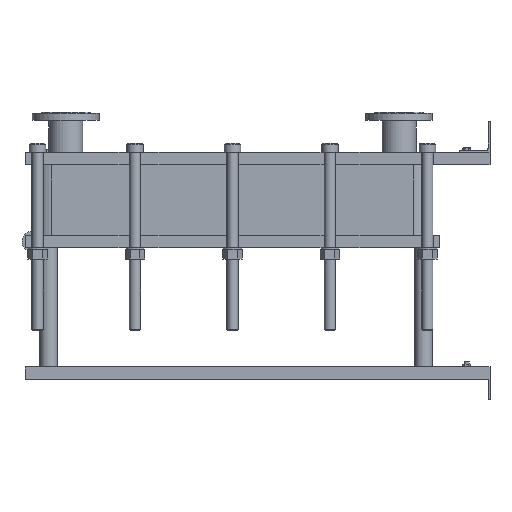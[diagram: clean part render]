
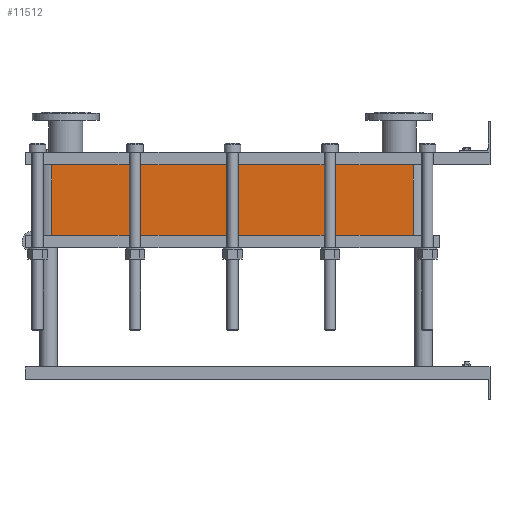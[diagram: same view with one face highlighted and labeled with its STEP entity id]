
A CAD part, left-side view. The second image highlights one B-rep face of the part: STEP entity #11512.
In plain terms, the highlighted planar face has unit normal (-1, 0, 0).
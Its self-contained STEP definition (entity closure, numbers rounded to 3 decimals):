
#1129=LINE('',#23232,#2102);
#1130=LINE('',#23236,#2103);
#1131=LINE('',#23238,#2104);
#1132=LINE('',#23239,#2105);
#2102=VECTOR('',#15887,10.);
#2103=VECTOR('',#15892,10.);
#2104=VECTOR('',#15893,10.);
#2105=VECTOR('',#15894,10.);
#3267=FACE_OUTER_BOUND('',#4093,.T.);
#4093=EDGE_LOOP('',(#10103,#10104,#10105,#10106));
#5642=VERTEX_POINT('',#23229);
#5643=VERTEX_POINT('',#23231);
#5644=VERTEX_POINT('',#23235);
#5645=VERTEX_POINT('',#23237);
#7159=EDGE_CURVE('',#5643,#5642,#1129,.T.);
#7161=EDGE_CURVE('',#5642,#5644,#1130,.T.);
#7162=EDGE_CURVE('',#5645,#5644,#1131,.T.);
#7163=EDGE_CURVE('',#5645,#5643,#1132,.T.);
#10103=ORIENTED_EDGE('',*,*,#7161,.T.);
#10104=ORIENTED_EDGE('',*,*,#7162,.F.);
#10105=ORIENTED_EDGE('',*,*,#7163,.T.);
#10106=ORIENTED_EDGE('',*,*,#7159,.T.);
#10857=PLANE('',#12751);
#11512=ADVANCED_FACE('',(#3267),#10857,.T.);
#12751=AXIS2_PLACEMENT_3D('',#23234,#15890,#15891);
#15887=DIRECTION('',(0.,0.,-1.));
#15890=DIRECTION('center_axis',(-1.,0.,0.));
#15891=DIRECTION('ref_axis',(0.,1.,0.));
#15892=DIRECTION('',(0.,-1.,0.));
#15893=DIRECTION('',(0.,0.,-1.));
#15894=DIRECTION('',(0.,1.,0.));
#23229=CARTESIAN_POINT('',(-200.,1414.,-227.7));
#23231=CARTESIAN_POINT('',(-200.,1414.,0.));
#23232=CARTESIAN_POINT('',(-200.,1414.,0.));
#23234=CARTESIAN_POINT('Origin',(-200.,248.,0.));
#23235=CARTESIAN_POINT('',(-200.,248.,-227.7));
#23236=CARTESIAN_POINT('',(-200.,539.5,-227.7));
#23237=CARTESIAN_POINT('',(-200.,248.,0.));
#23238=CARTESIAN_POINT('',(-200.,248.,0.));
#23239=CARTESIAN_POINT('',(-200.,248.,0.));
